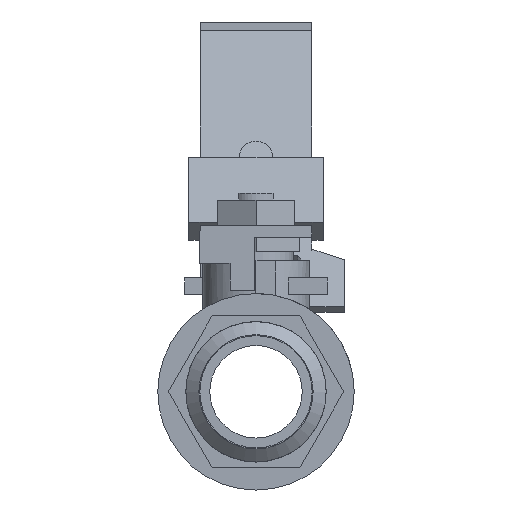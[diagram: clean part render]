
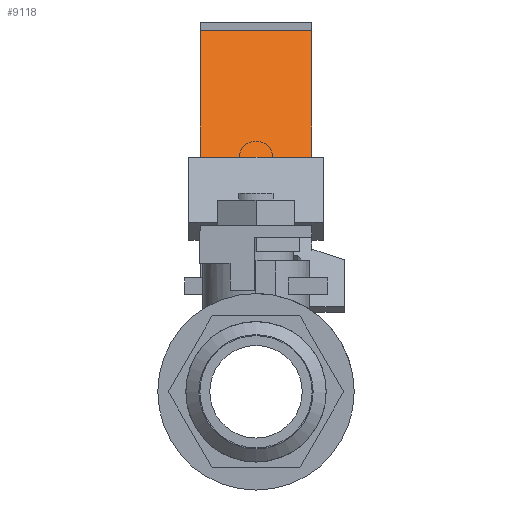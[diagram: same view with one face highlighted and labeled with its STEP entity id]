
A CAD part, left-side view. The second image highlights one B-rep face of the part: STEP entity #9118.
In plain terms, the highlighted planar face has unit normal (-0.884, 0, 0.468).
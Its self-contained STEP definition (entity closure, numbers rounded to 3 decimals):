
#8262 = PLANE('',#8263);
#8263 = AXIS2_PLACEMENT_3D('',#8264,#8265,#8266);
#8264 = CARTESIAN_POINT('',(2.376,0.444,1.495));
#8265 = DIRECTION('',(0.469,0.,0.883));
#8266 = DIRECTION('',(-0.883,0.,0.469));
#8300 = EDGE_CURVE('',#8301,#8303,#8305,.T.);
#8301 = VERTEX_POINT('',#8302);
#8302 = CARTESIAN_POINT('',(2.341,-0.37,1.513));
#8303 = VERTEX_POINT('',#8304);
#8304 = CARTESIAN_POINT('',(2.341,0.37,1.513));
#8305 = SURFACE_CURVE('',#8306,(#8310,#8317),.PCURVE_S1.);
#8306 = LINE('',#8307,#8308);
#8307 = CARTESIAN_POINT('',(2.341,0.407,1.513));
#8308 = VECTOR('',#8309,1.);
#8309 = DIRECTION('',(0.,1.,0.));
#8310 = PCURVE('',#8262,#8311);
#8311 = DEFINITIONAL_REPRESENTATION('',(#8312),#8316);
#8312 = LINE('',#8313,#8314);
#8313 = CARTESIAN_POINT('',(0.04,0.037));
#8314 = VECTOR('',#8315,1.);
#8315 = DIRECTION('',(0.,-1.));
#8316 = ( GEOMETRIC_REPRESENTATION_CONTEXT(2) 
PARAMETRIC_REPRESENTATION_CONTEXT() REPRESENTATION_CONTEXT('2D SPACE',''
  ) );
#8317 = PCURVE('',#8318,#8323);
#8318 = PLANE('',#8319);
#8319 = AXIS2_PLACEMENT_3D('',#8320,#8321,#8322);
#8320 = CARTESIAN_POINT('',(2.465,0.37,1.746));
#8321 = DIRECTION('',(-0.884,0.,0.468));
#8322 = DIRECTION('',(-0.468,0.,-0.884));
#8323 = DEFINITIONAL_REPRESENTATION('',(#8324),#8328);
#8324 = LINE('',#8325,#8326);
#8325 = CARTESIAN_POINT('',(0.263,-0.037));
#8326 = VECTOR('',#8327,1.);
#8327 = DIRECTION('',(0.,-1.));
#8328 = ( GEOMETRIC_REPRESENTATION_CONTEXT(2) 
PARAMETRIC_REPRESENTATION_CONTEXT() REPRESENTATION_CONTEXT('2D SPACE',''
  ) );
#8346 = PLANE('',#8347);
#8347 = AXIS2_PLACEMENT_3D('',#8348,#8349,#8350);
#8348 = CARTESIAN_POINT('',(3.234,0.37,1.945));
#8349 = DIRECTION('',(0.,1.,0.));
#8350 = DIRECTION('',(0.,-0.,1.));
#8502 = PLANE('',#8503);
#8503 = AXIS2_PLACEMENT_3D('',#8504,#8505,#8506);
#8504 = CARTESIAN_POINT('',(3.234,-0.37,1.945));
#8505 = DIRECTION('',(0.,1.,0.));
#8506 = DIRECTION('',(0.,-0.,1.));
#8719 = EDGE_CURVE('',#8720,#8303,#8722,.T.);
#8720 = VERTEX_POINT('',#8721);
#8721 = CARTESIAN_POINT('',(2.806,0.37,2.391));
#8722 = SURFACE_CURVE('',#8723,(#8727,#8734),.PCURVE_S1.);
#8723 = LINE('',#8724,#8725);
#8724 = CARTESIAN_POINT('',(2.806,0.37,2.391));
#8725 = VECTOR('',#8726,1.);
#8726 = DIRECTION('',(-0.468,0.,-0.884));
#8727 = PCURVE('',#8346,#8728);
#8728 = DEFINITIONAL_REPRESENTATION('',(#8729),#8733);
#8729 = LINE('',#8730,#8731);
#8730 = CARTESIAN_POINT('',(0.445,-0.429));
#8731 = VECTOR('',#8732,1.);
#8732 = DIRECTION('',(-0.884,-0.468));
#8733 = ( GEOMETRIC_REPRESENTATION_CONTEXT(2) 
PARAMETRIC_REPRESENTATION_CONTEXT() REPRESENTATION_CONTEXT('2D SPACE',''
  ) );
#8734 = PCURVE('',#8318,#8735);
#8735 = DEFINITIONAL_REPRESENTATION('',(#8736),#8740);
#8736 = LINE('',#8737,#8738);
#8737 = CARTESIAN_POINT('',(-0.729,0.));
#8738 = VECTOR('',#8739,1.);
#8739 = DIRECTION('',(1.,0.));
#8740 = ( GEOMETRIC_REPRESENTATION_CONTEXT(2) 
PARAMETRIC_REPRESENTATION_CONTEXT() REPRESENTATION_CONTEXT('2D SPACE',''
  ) );
#8758 = PLANE('',#8759);
#8759 = AXIS2_PLACEMENT_3D('',#8760,#8761,#8762);
#8760 = CARTESIAN_POINT('',(2.873,0.37,2.391));
#8761 = DIRECTION('',(0.,0.,1.));
#8762 = DIRECTION('',(-1.,0.,0.));
#9076 = VERTEX_POINT('',#9077);
#9077 = CARTESIAN_POINT('',(2.806,-0.37,2.391));
#9098 = EDGE_CURVE('',#8301,#9076,#9099,.T.);
#9099 = SURFACE_CURVE('',#9100,(#9104,#9111),.PCURVE_S1.);
#9100 = LINE('',#9101,#9102);
#9101 = CARTESIAN_POINT('',(2.806,-0.37,2.391));
#9102 = VECTOR('',#9103,1.);
#9103 = DIRECTION('',(0.468,0.,0.884));
#9104 = PCURVE('',#8502,#9105);
#9105 = DEFINITIONAL_REPRESENTATION('',(#9106),#9110);
#9106 = LINE('',#9107,#9108);
#9107 = CARTESIAN_POINT('',(0.445,-0.429));
#9108 = VECTOR('',#9109,1.);
#9109 = DIRECTION('',(0.884,0.468));
#9110 = ( GEOMETRIC_REPRESENTATION_CONTEXT(2) 
PARAMETRIC_REPRESENTATION_CONTEXT() REPRESENTATION_CONTEXT('2D SPACE',''
  ) );
#9111 = PCURVE('',#8318,#9112);
#9112 = DEFINITIONAL_REPRESENTATION('',(#9113),#9117);
#9113 = LINE('',#9114,#9115);
#9114 = CARTESIAN_POINT('',(-0.729,0.74));
#9115 = VECTOR('',#9116,1.);
#9116 = DIRECTION('',(-1.,0.));
#9117 = ( GEOMETRIC_REPRESENTATION_CONTEXT(2) 
PARAMETRIC_REPRESENTATION_CONTEXT() REPRESENTATION_CONTEXT('2D SPACE',''
  ) );
#9118 = ADVANCED_FACE('',(#9119),#8318,.T.);
#9119 = FACE_BOUND('',#9120,.T.);
#9120 = EDGE_LOOP('',(#9121,#9122,#9123,#9144));
#9121 = ORIENTED_EDGE('',*,*,#8300,.F.);
#9122 = ORIENTED_EDGE('',*,*,#9098,.T.);
#9123 = ORIENTED_EDGE('',*,*,#9124,.F.);
#9124 = EDGE_CURVE('',#8720,#9076,#9125,.T.);
#9125 = SURFACE_CURVE('',#9126,(#9130,#9137),.PCURVE_S1.);
#9126 = LINE('',#9127,#9128);
#9127 = CARTESIAN_POINT('',(2.806,0.37,2.391));
#9128 = VECTOR('',#9129,1.);
#9129 = DIRECTION('',(0.,-1.,0.));
#9130 = PCURVE('',#8318,#9131);
#9131 = DEFINITIONAL_REPRESENTATION('',(#9132),#9136);
#9132 = LINE('',#9133,#9134);
#9133 = CARTESIAN_POINT('',(-0.729,0.));
#9134 = VECTOR('',#9135,1.);
#9135 = DIRECTION('',(-0.,1.));
#9136 = ( GEOMETRIC_REPRESENTATION_CONTEXT(2) 
PARAMETRIC_REPRESENTATION_CONTEXT() REPRESENTATION_CONTEXT('2D SPACE',''
  ) );
#9137 = PCURVE('',#8758,#9138);
#9138 = DEFINITIONAL_REPRESENTATION('',(#9139),#9143);
#9139 = LINE('',#9140,#9141);
#9140 = CARTESIAN_POINT('',(0.068,0.));
#9141 = VECTOR('',#9142,1.);
#9142 = DIRECTION('',(0.,1.));
#9143 = ( GEOMETRIC_REPRESENTATION_CONTEXT(2) 
PARAMETRIC_REPRESENTATION_CONTEXT() REPRESENTATION_CONTEXT('2D SPACE',''
  ) );
#9144 = ORIENTED_EDGE('',*,*,#8719,.T.);
